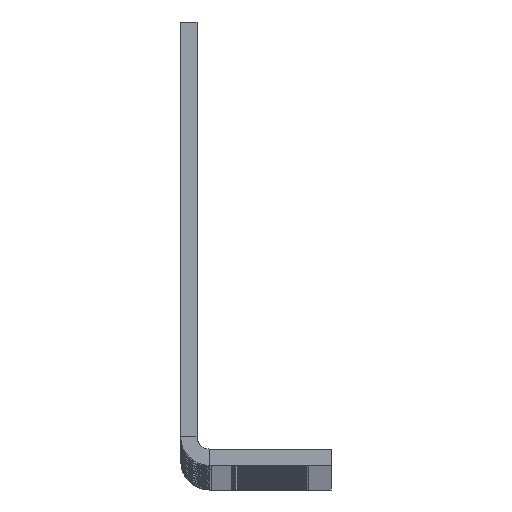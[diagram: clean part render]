
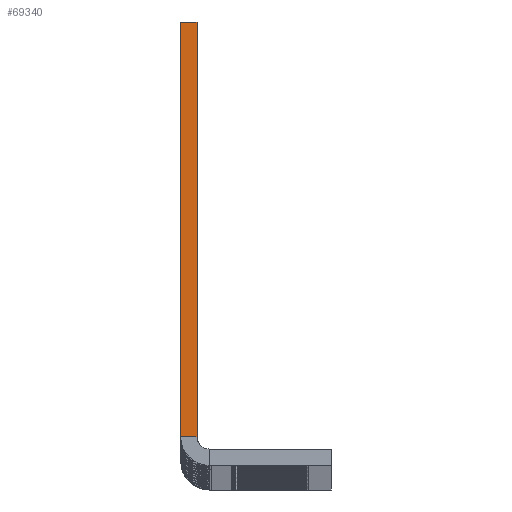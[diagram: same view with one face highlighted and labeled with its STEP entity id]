
A CAD part, top view. The second image highlights one B-rep face of the part: STEP entity #69340.
In plain terms, the highlighted planar face has unit normal (0, 0, 1).
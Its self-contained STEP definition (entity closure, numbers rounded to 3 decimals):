
#3500 = FACE_OUTER_BOUND ( 'NONE', #75766, .T. ) ;
#9127 = CARTESIAN_POINT ( 'NONE',  ( 3.5, 2., 866.5 ) ) ;
#9131 = PLANE ( 'NONE',  #48009 ) ;
#9134 = DIRECTION ( 'NONE',  ( 0., 0., 1. ) ) ;
#9135 = DIRECTION ( 'NONE',  ( 1., 0., 0. ) ) ;
#11793 = EDGE_CURVE ( 'NONE', #71339, #71391, #28484, .T. ) ;
#11796 = EDGE_CURVE ( 'NONE', #71391, #71388, #28487, .T. ) ;
#11799 = EDGE_CURVE ( 'NONE', #71389, #71388, #28485, .T. ) ;
#11802 = EDGE_CURVE ( 'NONE', #71339, #71389, #28495, .T. ) ;
#13614 = CARTESIAN_POINT ( 'NONE',  ( 0., 54.5, 866.5 ) ) ;
#13800 = CARTESIAN_POINT ( 'NONE',  ( 2., 3.5, 866.5 ) ) ;
#13801 = CARTESIAN_POINT ( 'NONE',  ( 2., 54.5, 866.5 ) ) ;
#13803 = CARTESIAN_POINT ( 'NONE',  ( 0., 3.5, 866.5 ) ) ;
#28484 = LINE ( 'NONE', #30353, #28486 ) ;
#28485 = LINE ( 'NONE', #30358, #28494 ) ;
#28486 = VECTOR ( 'NONE', #30354, 1000. ) ;
#28487 = LINE ( 'NONE', #30365, #28490 ) ;
#28490 = VECTOR ( 'NONE', #30366, 1000. ) ;
#28494 = VECTOR ( 'NONE', #30370, 1000. ) ;
#28495 = LINE ( 'NONE', #30373, #28498 ) ;
#28498 = VECTOR ( 'NONE', #30375, 1000. ) ;
#30353 = CARTESIAN_POINT ( 'NONE',  ( 0., 0., 866.5 ) ) ;
#30354 = DIRECTION ( 'NONE',  ( 0., -1., 0. ) ) ;
#30358 = CARTESIAN_POINT ( 'NONE',  ( 2., 0., 866.5 ) ) ;
#30365 = CARTESIAN_POINT ( 'NONE',  ( 0., 3.5, 866.5 ) ) ;
#30366 = DIRECTION ( 'NONE',  ( 1., 0., 0. ) ) ;
#30370 = DIRECTION ( 'NONE',  ( 0., -1., 0. ) ) ;
#30373 = CARTESIAN_POINT ( 'NONE',  ( 0., 54.5, 866.5 ) ) ;
#30375 = DIRECTION ( 'NONE',  ( 1., 0., 0. ) ) ;
#48009 = AXIS2_PLACEMENT_3D ( 'NONE', #9127, #9134, #9135 ) ;
#69340 = ADVANCED_FACE ( 'NONE', ( #3500 ), #9131, .T. ) ;
#71339 = VERTEX_POINT ( 'NONE', #13614 ) ;
#71388 = VERTEX_POINT ( 'NONE', #13800 ) ;
#71389 = VERTEX_POINT ( 'NONE', #13801 ) ;
#71391 = VERTEX_POINT ( 'NONE', #13803 ) ;
#73690 = ORIENTED_EDGE ( 'NONE', *, *, #11802, .F. ) ;
#73695 = ORIENTED_EDGE ( 'NONE', *, *, #11799, .F. ) ;
#73696 = ORIENTED_EDGE ( 'NONE', *, *, #11796, .T. ) ;
#73697 = ORIENTED_EDGE ( 'NONE', *, *, #11793, .T. ) ;
#75766 = EDGE_LOOP ( 'NONE', ( #73697, #73696, #73695, #73690 ) ) ;
